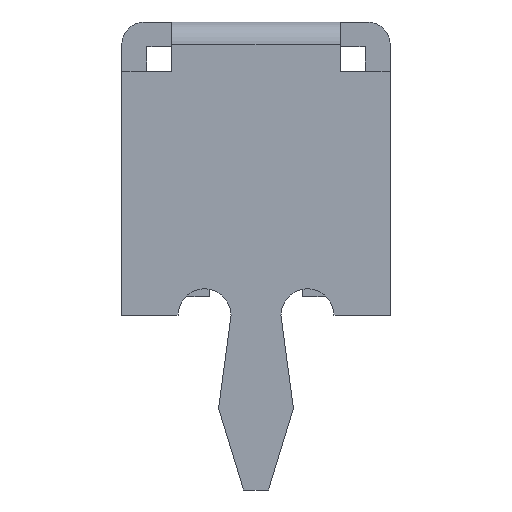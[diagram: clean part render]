
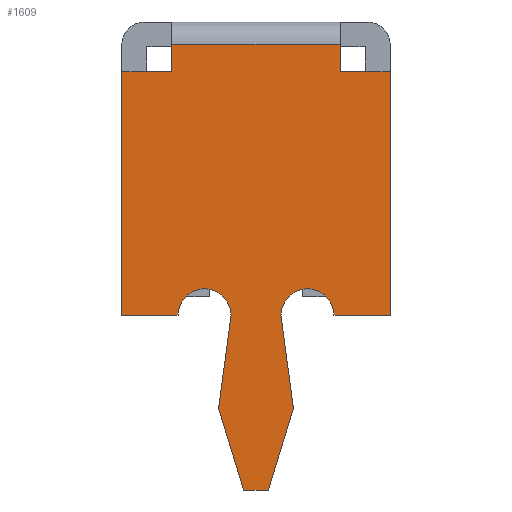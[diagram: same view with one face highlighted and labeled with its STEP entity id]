
A CAD part, left-side view. The second image highlights one B-rep face of the part: STEP entity #1609.
In plain terms, the highlighted planar face has unit normal (-1, 0, 0).
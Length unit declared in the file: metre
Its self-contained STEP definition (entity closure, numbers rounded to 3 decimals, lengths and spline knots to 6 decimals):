
#26=CIRCLE('',#1699,0.000425);
#27=CIRCLE('',#1700,0.000425);
#75=ORIENTED_EDGE('',*,*,#552,.T.);
#76=ORIENTED_EDGE('',*,*,#550,.T.);
#77=ORIENTED_EDGE('',*,*,#533,.F.);
#78=ORIENTED_EDGE('',*,*,#553,.T.);
#79=ORIENTED_EDGE('',*,*,#554,.T.);
#80=ORIENTED_EDGE('',*,*,#555,.F.);
#81=ORIENTED_EDGE('',*,*,#556,.F.);
#82=ORIENTED_EDGE('',*,*,#557,.T.);
#83=ORIENTED_EDGE('',*,*,#558,.T.);
#84=ORIENTED_EDGE('',*,*,#559,.T.);
#85=ORIENTED_EDGE('',*,*,#560,.T.);
#86=ORIENTED_EDGE('',*,*,#561,.T.);
#87=ORIENTED_EDGE('',*,*,#562,.F.);
#88=ORIENTED_EDGE('',*,*,#563,.F.);
#89=ORIENTED_EDGE('',*,*,#564,.F.);
#90=ORIENTED_EDGE('',*,*,#565,.F.);
#533=EDGE_CURVE('',#773,#774,#933,.T.);
#550=EDGE_CURVE('',#789,#774,#949,.T.);
#552=EDGE_CURVE('',#790,#789,#950,.F.);
#553=EDGE_CURVE('',#773,#791,#951,.F.);
#554=EDGE_CURVE('',#791,#792,#952,.T.);
#555=EDGE_CURVE('',#793,#792,#953,.F.);
#556=EDGE_CURVE('',#794,#793,#26,.T.);
#557=EDGE_CURVE('',#794,#795,#954,.T.);
#558=EDGE_CURVE('',#795,#796,#955,.T.);
#559=EDGE_CURVE('',#796,#797,#956,.F.);
#560=EDGE_CURVE('',#797,#798,#957,.T.);
#561=EDGE_CURVE('',#798,#799,#958,.T.);
#562=EDGE_CURVE('',#800,#799,#27,.T.);
#563=EDGE_CURVE('',#801,#800,#959,.F.);
#564=EDGE_CURVE('',#802,#801,#960,.F.);
#565=EDGE_CURVE('',#790,#802,#961,.F.);
#773=VERTEX_POINT('',#2241);
#774=VERTEX_POINT('',#2243);
#789=VERTEX_POINT('',#2277);
#790=VERTEX_POINT('',#2281);
#791=VERTEX_POINT('',#2283);
#792=VERTEX_POINT('',#2285);
#793=VERTEX_POINT('',#2287);
#794=VERTEX_POINT('',#2289);
#795=VERTEX_POINT('',#2291);
#796=VERTEX_POINT('',#2293);
#797=VERTEX_POINT('',#2295);
#798=VERTEX_POINT('',#2297);
#799=VERTEX_POINT('',#2299);
#800=VERTEX_POINT('',#2301);
#801=VERTEX_POINT('',#2303);
#802=VERTEX_POINT('',#2305);
#933=LINE('',#2242,#1149);
#949=LINE('',#2276,#1165);
#950=LINE('',#2280,#1166);
#951=LINE('',#2282,#1167);
#952=LINE('',#2284,#1168);
#953=LINE('',#2286,#1169);
#954=LINE('',#2290,#1170);
#955=LINE('',#2292,#1171);
#956=LINE('',#2294,#1172);
#957=LINE('',#2296,#1173);
#958=LINE('',#2298,#1174);
#959=LINE('',#2302,#1175);
#960=LINE('',#2304,#1176);
#961=LINE('',#2306,#1177);
#1149=VECTOR('',#1808,1.);
#1165=VECTOR('',#1830,1.);
#1166=VECTOR('',#1835,1.);
#1167=VECTOR('',#1836,1.);
#1168=VECTOR('',#1837,1.);
#1169=VECTOR('',#1838,1.);
#1170=VECTOR('',#1841,1.);
#1171=VECTOR('',#1842,1.);
#1172=VECTOR('',#1843,1.);
#1173=VECTOR('',#1844,1.);
#1174=VECTOR('',#1845,1.);
#1175=VECTOR('',#1848,1.);
#1176=VECTOR('',#1849,1.);
#1177=VECTOR('',#1850,1.);
#1364=EDGE_LOOP('',(#75,#76,#77,#78,#79,#80,#81,#82,#83,#84,#85,#86,#87,
#88,#89,#90));
#1452=FACE_BOUND('',#1364,.T.);
#1538=PLANE('',#1698);
#1609=ADVANCED_FACE('',(#1452),#1538,.T.);
#1698=AXIS2_PLACEMENT_3D('',#2279,#1833,#1834);
#1699=AXIS2_PLACEMENT_3D('',#2288,#1839,#1840);
#1700=AXIS2_PLACEMENT_3D('',#2300,#1846,#1847);
#1808=DIRECTION('',(0.,0.,1.));
#1830=DIRECTION('',(0.,1.,0.));
#1833=DIRECTION('',(-1.,0.,0.));
#1834=DIRECTION('',(0.,1.,0.));
#1835=DIRECTION('',(0.,0.,-1.));
#1836=DIRECTION('',(0.,-1.,0.));
#1837=DIRECTION('',(0.,0.,-1.));
#1838=DIRECTION('',(0.,-1.,0.));
#1839=DIRECTION('',(-1.,0.,0.));
#1840=DIRECTION('',(0.,0.,1.));
#1841=DIRECTION('',(0.,0.132,-0.991));
#1842=DIRECTION('',(0.,-0.294,-0.956));
#1843=DIRECTION('',(0.,1.,0.));
#1844=DIRECTION('',(0.,-0.294,0.956));
#1845=DIRECTION('',(0.,0.132,0.991));
#1846=DIRECTION('',(-1.,0.,0.));
#1847=DIRECTION('',(0.,0.,1.));
#1848=DIRECTION('',(0.,-1.,0.));
#1849=DIRECTION('',(0.,0.,1.));
#1850=DIRECTION('',(0.,1.,0.));
#2241=CARTESIAN_POINT('',(0.018202,0.025356,0.005495));
#2242=CARTESIAN_POINT('',(0.018202,0.025356,0.005895));
#2243=CARTESIAN_POINT('',(0.018202,0.025356,0.005935));
#2276=CARTESIAN_POINT('',(0.018202,0.022656,0.005935));
#2277=CARTESIAN_POINT('',(0.018202,0.022656,0.005935));
#2279=CARTESIAN_POINT('',(0.018202,0.022656,0.005895));
#2280=CARTESIAN_POINT('',(0.018202,0.022656,0.005895));
#2281=CARTESIAN_POINT('',(0.018202,0.022656,0.005495));
#2282=CARTESIAN_POINT('',(0.018202,0.025356,0.005495));
#2283=CARTESIAN_POINT('',(0.018202,0.026156,0.005495));
#2284=CARTESIAN_POINT('',(0.018202,0.026156,0.005495));
#2285=CARTESIAN_POINT('',(0.018202,0.026156,0.001595));
#2286=CARTESIAN_POINT('',(0.018202,0.025356,0.001595));
#2287=CARTESIAN_POINT('',(0.018202,0.025256,0.001595));
#2288=CARTESIAN_POINT('',(0.018202,0.024831,0.001595));
#2289=CARTESIAN_POINT('',(0.018202,0.024406,0.001595));
#2290=CARTESIAN_POINT('',(0.018202,0.024406,0.001595));
#2291=CARTESIAN_POINT('',(0.018202,0.024606,0.000095));
#2292=CARTESIAN_POINT('',(0.018202,0.024606,0.000095));
#2293=CARTESIAN_POINT('',(0.018202,0.024206,-0.001205));
#2294=CARTESIAN_POINT('',(0.018202,0.022656,-0.001205));
#2295=CARTESIAN_POINT('',(0.018202,0.023806,-0.001205));
#2296=CARTESIAN_POINT('',(0.018202,0.023806,-0.001205));
#2297=CARTESIAN_POINT('',(0.018202,0.023406,0.000095));
#2298=CARTESIAN_POINT('',(0.018202,0.023406,0.000095));
#2299=CARTESIAN_POINT('',(0.018202,0.023606,0.001595));
#2300=CARTESIAN_POINT('',(0.018202,0.023181,0.001595));
#2301=CARTESIAN_POINT('',(0.018202,0.022756,0.001595));
#2302=CARTESIAN_POINT('',(0.018202,0.022756,0.001595));
#2303=CARTESIAN_POINT('',(0.018202,0.021856,0.001595));
#2304=CARTESIAN_POINT('',(0.018202,0.021856,0.005495));
#2305=CARTESIAN_POINT('',(0.018202,0.021856,0.005495));
#2306=CARTESIAN_POINT('',(0.018202,0.022656,0.005495));
